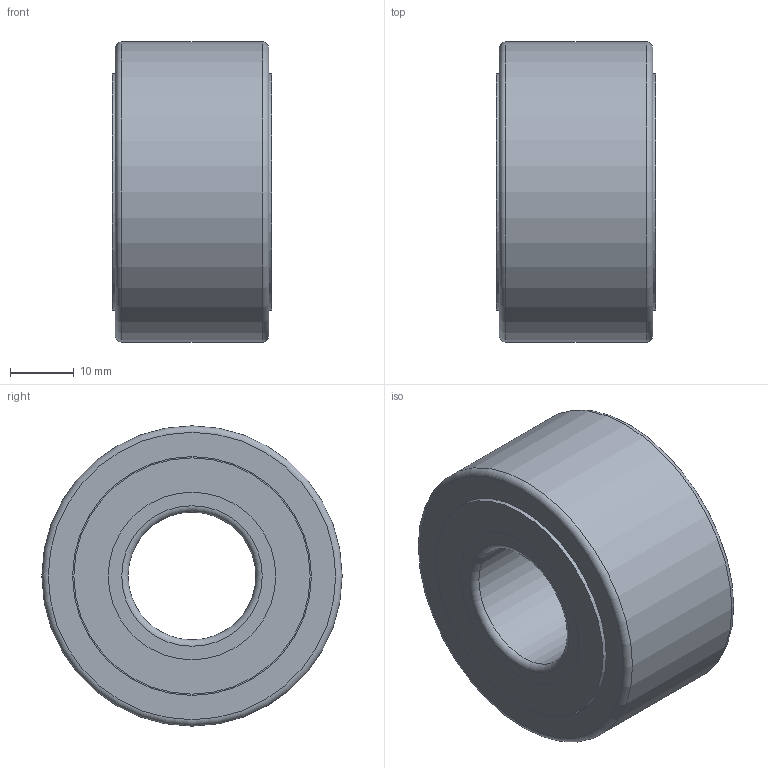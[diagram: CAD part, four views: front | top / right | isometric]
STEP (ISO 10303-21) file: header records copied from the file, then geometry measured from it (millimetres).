
FILE_DESCRIPTION(/* description */ (''),/* implementation_level */ '2;1');
FILE_NAME(/* name */ 'C:\Dokumenty D.R\Ložiská 3D\MODELY\Ihlove loziska\NATV-PP\NATV-PP--\NATV20-PP.stp',/* time_stamp */ '2018-06-05T14:36:31+02:00',/* author */ ('OUREHANEKD'),/* organization */ (''),/* preprocessor_version */ 'ST-DEVELOPER v16.13',/* originating_system */ 'Autodesk Inventor 2018',/* authorisation */ '');
FILE_SCHEMA (('AUTOMOTIVE_DESIGN { 1 0 10303 214 3 1 1 }'));
Length unit declared in the file: millimetre
Products named in the file (6): NATV20-PP; NATV20-PP-01; NATV20-PP-shield; NATV20-PP-NBR; NATV20-PP-needle; NATV20-PP-02
Assembly tree (44 placements, depth 2):
  NATV20-PP
    NATV20-PP-01
    NATV20-PP-shield
    NATV20-PP-NBR
    NATV20-PP-needle  x40
    NATV20-PP-02
Bounding box: 25 x 47 x 47 mm (x, y, z)
Volume: 32914.1 mm3; surface area: 20749.8 mm2
Topology: 46 solids, 46 shells, 161 faces, 185 edges, 122 vertices
Faces by surface type: plane 98, cylinder 59, torus 4
Full cylindrical faces by diameter (mm): 1.728 x40, 2.16 x1, 20 x1, 26.24 x4, 28.64 x1, 32.096 x1, 37 x4, 37.4 x2, 38.92 x4, 47 x1
Entity records: 1499 total; most frequent: DIRECTION 272, CARTESIAN_POINT 248, AXIS2_PLACEMENT_3D 136, EDGE_LOOP 88, ORIENTED_EDGE 88, PRODUCT_DEFINITION_SHAPE 50, ITEM_DEFINED_TRANSFORMATION 44, CONTEXT_DEPENDENT_SHAPE_REPRESENTATION 44
